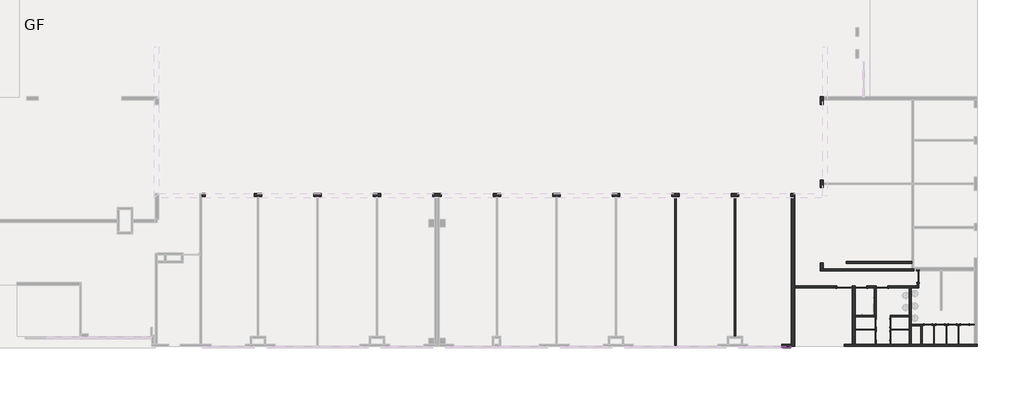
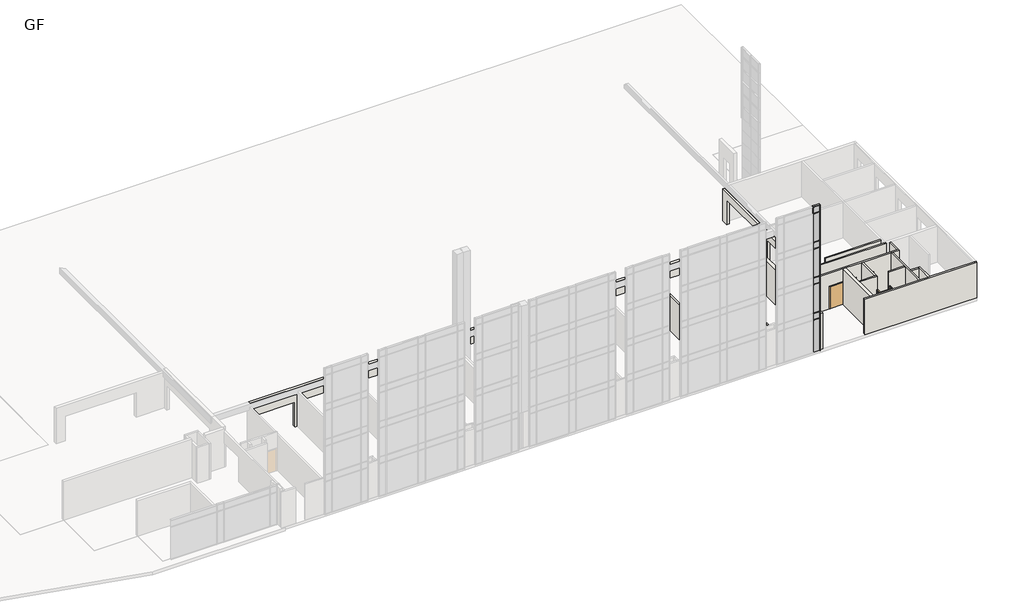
# One storey, part 11 of 23: 26 walls, 17 members, 12 doors, 8 plates.
"""IFC4 building model written with IfcOpenShell, lengths in millimetres."""

from ifc_helpers import new_model, si_unit, frame, origin, place, context, project, spatial, polyline, outline, extrude, faceted_brep, transform, mapped, element, save
from components import m_single_flush_d_1200x2150_085a39eb, m_single_flush_d_600x2100_toilet_partition_8216d307, m_single_flush_d_900x2150_308bf3ab, m_single_flush_d_900x2150_4cfb9a1c, rectangular_mullion_50_x_150mm_64d38db8, rectangular_mullion_50_x_150mm_68b3818a, rectangular_mullion_50_x_150mm_9e0f1e24, rectangular_mullion_50_x_150mm_a95743fc, rectangular_mullion_50_x_150mm_32aaa733, rectangular_mullion_50_x_150mm_9b8962c0, rectangular_mullion_50_x_150mm_dbb82e9e, system_panel_glazed_f9f902e6, system_panel_glazed_6ff5b55b, system_panel_glazed_93ed122c

model = new_model("IFC4")

# Units and contexts
model_context = context("Model", 3, world=origin())
ifc_project = project(units=[si_unit("LENGTHUNIT", "METRE", prefix="MILLI")], contexts=[model_context])

# Site, building, storey
site = spatial("IfcSite", under=ifc_project)
building = spatial("IfcBuilding", under=site)
storey = spatial("IfcBuildingStorey", under=building, Name="GF", Elevation=900.0)

# Doors
placement = place(None, origin())
m_single_flush_d_1200x2150_shape = m_single_flush_d_1200x2150_085a39eb(model_context)
element("IfcDoor", 1, ObjectType="M_Single-Flush : D-1200x2150", at=placement, inside=storey, context=model_context, shape_type="MappedRepresentation", body=[
    mapped(m_single_flush_d_1200x2150_shape, transform((32662.4134101, -21228.6148653, 900.0), x_axis=(1.0, 0.0, 0.0), y_axis=(0.0, 1.0, 0.0), z_axis=(0.0, 0.0, 1.0))),
])
m_single_flush_d_600x2100_toilet_partition_shape = m_single_flush_d_600x2100_toilet_partition_8216d307(model_context)
element("IfcDoor", 2, ObjectType="M_Single-Flush : D-600x2100-toilet-partition", at=placement, inside=storey, context=model_context, shape_type="MappedRepresentation", body=[
    mapped(m_single_flush_d_600x2100_toilet_partition_shape, transform((39137.4134101, -24152.6148653, 900.0), x_axis=(-1.0, 0.0, 0.0), y_axis=(0.0, -1.0, 0.0), z_axis=(0.0, 0.0, 1.0))),
])
element("IfcDoor", 3, ObjectType="M_Single-Flush : D-600x2100-toilet-partition", at=placement, inside=storey, context=model_context, shape_type="MappedRepresentation", body=[
    mapped(m_single_flush_d_600x2100_toilet_partition_shape, transform((40087.4134101, -24152.6148653, 900.0), x_axis=(-1.0, 0.0, 0.0), y_axis=(0.0, -1.0, 0.0), z_axis=(0.0, 0.0, 1.0))),
])
element("IfcDoor", 4, ObjectType="M_Single-Flush : D-600x2100-toilet-partition", at=placement, inside=storey, context=model_context, shape_type="MappedRepresentation", body=[
    mapped(m_single_flush_d_600x2100_toilet_partition_shape, transform((41037.4134101, -24152.6148653, 900.0), x_axis=(-1.0, 0.0, 0.0), y_axis=(0.0, -1.0, 0.0), z_axis=(0.0, 0.0, 1.0))),
])
element("IfcDoor", 5, ObjectType="M_Single-Flush : D-600x2100-toilet-partition", at=placement, inside=storey, context=model_context, shape_type="MappedRepresentation", body=[
    mapped(m_single_flush_d_600x2100_toilet_partition_shape, transform((41987.4134101, -24152.6148653, 900.0), x_axis=(-1.0, 0.0, 0.0), y_axis=(0.0, -1.0, 0.0), z_axis=(0.0, 0.0, 1.0))),
])
element("IfcDoor", 6, ObjectType="M_Single-Flush : D-600x2100-toilet-partition", at=placement, inside=storey, context=model_context, shape_type="MappedRepresentation", body=[
    mapped(m_single_flush_d_600x2100_toilet_partition_shape, transform((36217.4134101, -24027.6148653, 900.0), x_axis=(0.0, -1.0, 0.0), y_axis=(1.0, 0.0, 0.0), z_axis=(0.0, 0.0, 1.0))),
])
element("IfcDoor", 7, ObjectType="M_Single-Flush : D-600x2100-toilet-partition", at=placement, inside=storey, context=model_context, shape_type="MappedRepresentation", body=[
    mapped(m_single_flush_d_600x2100_toilet_partition_shape, transform((36217.4134101, -25027.6148653, 900.0), x_axis=(0.0, -1.0, 0.0), y_axis=(1.0, 0.0, 0.0), z_axis=(0.0, 0.0, 1.0))),
])
element("IfcDoor", 8, ObjectType="M_Single-Flush : D-600x2100-toilet-partition", at=placement, inside=storey, context=model_context, shape_type="MappedRepresentation", body=[
    mapped(m_single_flush_d_600x2100_toilet_partition_shape, transform((35082.4134101, -24027.6148653, 900.0), x_axis=(0.0, 1.0, 0.0), y_axis=(-1.0, 0.0, 0.0), z_axis=(0.0, 0.0, 1.0))),
])
element("IfcDoor", 9, ObjectType="M_Single-Flush : D-600x2100-toilet-partition", at=placement, inside=storey, context=model_context, shape_type="MappedRepresentation", body=[
    mapped(m_single_flush_d_600x2100_toilet_partition_shape, transform((35082.4134101, -25027.6148653, 900.0), x_axis=(0.0, 1.0, 0.0), y_axis=(-1.0, 0.0, 0.0), z_axis=(0.0, 0.0, 1.0))),
])
m_single_flush_d_900x2150_shape = m_single_flush_d_900x2150_308bf3ab(model_context)
element("IfcDoor", 10, ObjectType="M_Single-Flush : D-900x2150", at=placement, inside=storey, context=model_context, shape_type="MappedRepresentation", body=[
    mapped(m_single_flush_d_900x2150_shape, transform((35557.4134101, -21228.6148653, 900.0), x_axis=(-1.0, 0.0, 0.0), y_axis=(0.0, -1.0, 0.0), z_axis=(0.0, 0.0, 1.0))),
])
element("IfcDoor", 11, ObjectType="M_Single-Flush : D-900x2150", at=placement, inside=storey, context=model_context, shape_type="MappedRepresentation", body=[
    mapped(m_single_flush_d_900x2150_shape, transform((33942.4134101, -21228.6148653, 900.0), x_axis=(-1.0, 0.0, 0.0), y_axis=(0.0, -1.0, 0.0), z_axis=(0.0, 0.0, 1.0))),
])
m_single_flush_d_900x2150_2_shape = m_single_flush_d_900x2150_4cfb9a1c(model_context)
element("IfcDoor", 12, ObjectType="M_Single-Flush : D-900x2150", at=placement, inside=storey, context=model_context, shape_type="MappedRepresentation", body=[
    mapped(m_single_flush_d_900x2150_2_shape, transform((38363.4134101, -20422.6148653, 900.0), x_axis=(0.0, 1.0, 0.0), y_axis=(-1.0, 0.0, 0.0), z_axis=(0.0, 0.0, 1.0))),
])

# Members
rectangular_mullion_50_x_150mm_shape = rectangular_mullion_50_x_150mm_64d38db8(model_context)
element("IfcMember", 13, ObjectType="Rectangular Mullion : 50 x 150mm", at=placement, inside=storey, context=model_context, shape_type="MappedRepresentation", body=[
    mapped(rectangular_mullion_50_x_150mm_shape, transform((28437.4134101, -25897.6148653, 15125.0), x_axis=(0.0, 0.0, 1.0), y_axis=(0.0, -1.0, 0.0), z_axis=(1.0, 0.0, 0.0))),
])
rectangular_mullion_50_x_150mm_2_shape = rectangular_mullion_50_x_150mm_68b3818a(model_context)
element("IfcMember", 14, ObjectType="Rectangular Mullion : 50 x 150mm", at=placement, inside=storey, context=model_context, shape_type="MappedRepresentation", body=[
    mapped(rectangular_mullion_50_x_150mm_2_shape, transform((28437.4134101, -25897.6148653, 4750.0), x_axis=(0.0, 0.0, 1.0), y_axis=(0.0, -1.0, 0.0), z_axis=(1.0, 0.0, 0.0))),
])
element("IfcMember", 15, ObjectType="Rectangular Mullion : 50 x 150mm", at=placement, inside=storey, context=model_context, shape_type="MappedRepresentation", body=[
    mapped(rectangular_mullion_50_x_150mm_2_shape, transform((28437.4134101, -25897.6148653, 4100.0), x_axis=(0.0, 0.0, 1.0), y_axis=(0.0, -1.0, 0.0), z_axis=(1.0, 0.0, 0.0))),
])
element("IfcMember", 16, ObjectType="Rectangular Mullion : 50 x 150mm", at=placement, inside=storey, context=model_context, shape_type="MappedRepresentation", body=[
    mapped(rectangular_mullion_50_x_150mm_2_shape, transform((28437.4134101, -25897.6148653, 8200.0), x_axis=(0.0, 0.0, 1.0), y_axis=(0.0, -1.0, 0.0), z_axis=(1.0, 0.0, 0.0))),
])
element("IfcMember", 17, ObjectType="Rectangular Mullion : 50 x 150mm", at=placement, inside=storey, context=model_context, shape_type="MappedRepresentation", body=[
    mapped(rectangular_mullion_50_x_150mm_2_shape, transform((28437.4134101, -25897.6148653, 11650.0), x_axis=(0.0, 0.0, 1.0), y_axis=(0.0, -1.0, 0.0), z_axis=(1.0, 0.0, 0.0))),
])
element("IfcMember", 18, ObjectType="Rectangular Mullion : 50 x 150mm", at=placement, inside=storey, context=model_context, shape_type="MappedRepresentation", body=[
    mapped(rectangular_mullion_50_x_150mm_2_shape, transform((28437.4134101, -25897.6148653, 7550.0), x_axis=(0.0, 0.0, 1.0), y_axis=(0.0, -1.0, 0.0), z_axis=(1.0, 0.0, 0.0))),
])
element("IfcMember", 19, ObjectType="Rectangular Mullion : 50 x 150mm", at=placement, inside=storey, context=model_context, shape_type="MappedRepresentation", body=[
    mapped(rectangular_mullion_50_x_150mm_2_shape, transform((28437.4134101, -25897.6148653, 11000.0), x_axis=(0.0, 0.0, 1.0), y_axis=(0.0, -1.0, 0.0), z_axis=(1.0, 0.0, 0.0))),
])
element("IfcMember", 20, ObjectType="Rectangular Mullion : 50 x 150mm", at=placement, inside=storey, context=model_context, shape_type="MappedRepresentation", body=[
    mapped(rectangular_mullion_50_x_150mm_2_shape, transform((28437.4134101, -25897.6148653, 14450.0), x_axis=(0.0, 0.0, 1.0), y_axis=(0.0, -1.0, 0.0), z_axis=(1.0, 0.0, 0.0))),
])
rectangular_mullion_50_x_150mm_3_shape = rectangular_mullion_50_x_150mm_9e0f1e24(model_context)
element("IfcMember", 21, ObjectType="Rectangular Mullion : 50 x 150mm", at=placement, inside=storey, context=model_context, shape_type="MappedRepresentation", body=[
    mapped(rectangular_mullion_50_x_150mm_3_shape, transform((27812.4134101, -25897.6148653, 14450.0), x_axis=(1.0, 0.0, 0.0), y_axis=(0.0, -1.0, 0.0), z_axis=(0.0, 0.0, -1.0))),
])
rectangular_mullion_50_x_150mm_4_shape = rectangular_mullion_50_x_150mm_a95743fc(model_context)
element("IfcMember", 22, ObjectType="Rectangular Mullion : 50 x 150mm", at=placement, inside=storey, context=model_context, shape_type="MappedRepresentation", body=[
    mapped(rectangular_mullion_50_x_150mm_4_shape, transform((28487.4134101, -25897.6148653, 900.0), x_axis=(1.0, 0.0, 0.0), y_axis=(0.0, -1.0, 0.0), z_axis=(0.0, 0.0, -1.0))),
])
rectangular_mullion_50_x_150mm_5_shape = rectangular_mullion_50_x_150mm_32aaa733(model_context)
element("IfcMember", 23, ObjectType="Rectangular Mullion : 50 x 150mm", at=placement, inside=storey, context=model_context, shape_type="MappedRepresentation", body=[
    mapped(rectangular_mullion_50_x_150mm_5_shape, transform((28487.4134101, -25897.6148653, 4750.0), x_axis=(1.0, 0.0, 0.0), y_axis=(0.0, -1.0, 0.0), z_axis=(0.0, 0.0, -1.0))),
])
element("IfcMember", 24, ObjectType="Rectangular Mullion : 50 x 150mm", at=placement, inside=storey, context=model_context, shape_type="MappedRepresentation", body=[
    mapped(rectangular_mullion_50_x_150mm_5_shape, transform((28487.4134101, -25897.6148653, 8200.0), x_axis=(1.0, 0.0, 0.0), y_axis=(0.0, -1.0, 0.0), z_axis=(0.0, 0.0, -1.0))),
])
element("IfcMember", 25, ObjectType="Rectangular Mullion : 50 x 150mm", at=placement, inside=storey, context=model_context, shape_type="MappedRepresentation", body=[
    mapped(rectangular_mullion_50_x_150mm_5_shape, transform((28487.4134101, -25897.6148653, 11650.0), x_axis=(1.0, 0.0, 0.0), y_axis=(0.0, -1.0, 0.0), z_axis=(0.0, 0.0, -1.0))),
])
rectangular_mullion_50_x_150mm_6_shape = rectangular_mullion_50_x_150mm_9b8962c0(model_context)
element("IfcMember", 26, ObjectType="Rectangular Mullion : 50 x 150mm", at=placement, inside=storey, context=model_context, shape_type="MappedRepresentation", body=[
    mapped(rectangular_mullion_50_x_150mm_6_shape, transform((28487.4134101, -25897.6148653, 4100.0), x_axis=(1.0, 0.0, 0.0), y_axis=(0.0, -1.0, 0.0), z_axis=(0.0, 0.0, -1.0))),
])
element("IfcMember", 27, ObjectType="Rectangular Mullion : 50 x 150mm", at=placement, inside=storey, context=model_context, shape_type="MappedRepresentation", body=[
    mapped(rectangular_mullion_50_x_150mm_6_shape, transform((28487.4134101, -25897.6148653, 7550.0), x_axis=(1.0, 0.0, 0.0), y_axis=(0.0, -1.0, 0.0), z_axis=(0.0, 0.0, -1.0))),
])
element("IfcMember", 28, ObjectType="Rectangular Mullion : 50 x 150mm", at=placement, inside=storey, context=model_context, shape_type="MappedRepresentation", body=[
    mapped(rectangular_mullion_50_x_150mm_6_shape, transform((28487.4134101, -25897.6148653, 11000.0), x_axis=(1.0, 0.0, 0.0), y_axis=(0.0, -1.0, 0.0), z_axis=(0.0, 0.0, -1.0))),
])
rectangular_mullion_50_x_150mm_7_shape = rectangular_mullion_50_x_150mm_dbb82e9e(model_context)
element("IfcMember", 29, ObjectType="Rectangular Mullion : 50 x 150mm", at=placement, inside=storey, context=model_context, shape_type="MappedRepresentation", body=[
    mapped(rectangular_mullion_50_x_150mm_7_shape, transform((28487.4134101, -25897.6148653, 14450.0), x_axis=(1.0, 0.0, 0.0), y_axis=(0.0, -1.0, 0.0), z_axis=(0.0, 0.0, -1.0))),
])

# Plates
system_panel_glazed_shape = system_panel_glazed_f9f902e6(model_context)
element("IfcPlate", 30, ObjectType="System Panel : Glazed", at=placement, inside=storey, context=model_context, shape_type="MappedRepresentation", body=[
    mapped(system_panel_glazed_shape, transform((28137.4134101, -25897.6148653, 950.0), x_axis=(1.0, 0.0, 0.0), y_axis=(0.0, 1.0, 0.0), z_axis=(0.0, 0.0, 1.0))),
])
system_panel_glazed_2_shape = system_panel_glazed_6ff5b55b(model_context)
element("IfcPlate", 31, ObjectType="System Panel : Glazed", at=placement, inside=storey, context=model_context, shape_type="MappedRepresentation", body=[
    mapped(system_panel_glazed_2_shape, transform((28137.4134101, -25897.6148653, 4775.0), x_axis=(1.0, 0.0, 0.0), y_axis=(0.0, 1.0, 0.0), z_axis=(0.0, 0.0, 1.0))),
])
element("IfcPlate", 32, ObjectType="System Panel : Glazed", at=placement, inside=storey, context=model_context, shape_type="MappedRepresentation", body=[
    mapped(system_panel_glazed_2_shape, transform((28137.4134101, -25897.6148653, 8225.0), x_axis=(1.0, 0.0, 0.0), y_axis=(0.0, 1.0, 0.0), z_axis=(0.0, 0.0, 1.0))),
])
element("IfcPlate", 33, ObjectType="System Panel : Glazed", at=placement, inside=storey, context=model_context, shape_type="MappedRepresentation", body=[
    mapped(system_panel_glazed_2_shape, transform((28137.4134101, -25897.6148653, 11675.0), x_axis=(1.0, 0.0, 0.0), y_axis=(0.0, 1.0, 0.0), z_axis=(0.0, 0.0, 1.0))),
])
system_panel_glazed_3_shape = system_panel_glazed_93ed122c(model_context)
element("IfcPlate", 34, ObjectType="System Panel : Glazed", at=placement, inside=storey, context=model_context, shape_type="MappedRepresentation", body=[
    mapped(system_panel_glazed_3_shape, transform((28137.4134101, -25897.6148653, 4125.0), x_axis=(1.0, 0.0, 0.0), y_axis=(0.0, 1.0, 0.0), z_axis=(0.0, 0.0, 1.0))),
])
element("IfcPlate", 35, ObjectType="System Panel : Glazed", at=placement, inside=storey, context=model_context, shape_type="MappedRepresentation", body=[
    mapped(system_panel_glazed_3_shape, transform((28137.4134101, -25897.6148653, 7575.0), x_axis=(1.0, 0.0, 0.0), y_axis=(0.0, 1.0, 0.0), z_axis=(0.0, 0.0, 1.0))),
])
element("IfcPlate", 36, ObjectType="System Panel : Glazed", at=placement, inside=storey, context=model_context, shape_type="MappedRepresentation", body=[
    mapped(system_panel_glazed_3_shape, transform((28137.4134101, -25897.6148653, 11025.0), x_axis=(1.0, 0.0, 0.0), y_axis=(0.0, 1.0, 0.0), z_axis=(0.0, 0.0, 1.0))),
])
element("IfcPlate", 37, ObjectType="System Panel : Glazed", at=placement, inside=storey, context=model_context, shape_type="MappedRepresentation", body=[
    mapped(system_panel_glazed_3_shape, transform((28137.4134101, -25897.6148653, 14475.0), x_axis=(1.0, 0.0, 0.0), y_axis=(0.0, 1.0, 0.0), z_axis=(0.0, 0.0, 1.0))),
])

# Walls
element("IfcWall", 38, ObjectType="Toilet-partition", at=placement, inside=storey, context=model_context, shape_type="Brep", body=[
    faceted_brep([(41337.4134101, -24177.6148653, 900.0), (41487.4134101, -24177.6148653, 900.0), (41537.4134101, -24177.6148653, 900.0), (41687.4134101, -24177.6148653, 900.0), (41687.4134101, -24177.6148653, 3000.0), (42287.4134101, -24177.6148653, 3000.0), (42287.4134101, -24177.6148653, 900.0), (42717.4134101, -24177.6148653, 900.0), (42717.4134101, -24177.6148653, 3050.0), (41537.4134101, -24177.6148653, 3050.0), (41487.4134101, -24177.6148653, 3050.0), (40587.4134101, -24177.6148653, 3050.0), (40537.4134101, -24177.6148653, 3050.0), (39637.4134101, -24177.6148653, 3050.0), (39587.4134101, -24177.6148653, 3050.0), (38699.4134101, -24177.6148653, 3050.0), (38699.4134101, -24177.6148653, 900.0), (38837.4134101, -24177.6148653, 900.0), (38837.4134101, -24177.6148653, 3000.0), (39437.4134101, -24177.6148653, 3000.0), (39437.4134101, -24177.6148653, 900.0), (39587.4134101, -24177.6148653, 900.0), (39637.4134101, -24177.6148653, 900.0), (39787.4134101, -24177.6148653, 900.0), (39787.4134101, -24177.6148653, 3000.0), (40387.4134101, -24177.6148653, 3000.0), (40387.4134101, -24177.6148653, 900.0), (40537.4134101, -24177.6148653, 900.0), (40587.4134101, -24177.6148653, 900.0), (40737.4134101, -24177.6148653, 900.0), (40737.4134101, -24177.6148653, 3000.0), (41337.4134101, -24177.6148653, 3000.0), (41687.4134101, -24127.6148653, 3000.0), (41687.4134101, -24127.6148653, 900.0), (41337.4134101, -24127.6148653, 900.0), (41337.4134101, -24127.6148653, 3000.0), (40737.4134101, -24127.6148653, 3000.0), (40737.4134101, -24127.6148653, 900.0), (40387.4134101, -24127.6148653, 900.0), (40387.4134101, -24127.6148653, 3000.0), (39787.4134101, -24127.6148653, 3000.0), (39787.4134101, -24127.6148653, 900.0), (39437.4134101, -24127.6148653, 900.0), (39437.4134101, -24127.6148653, 3000.0), (38837.4134101, -24127.6148653, 3000.0), (38837.4134101, -24127.6148653, 900.0), (38699.4134101, -24127.6148653, 900.0), (38699.4134101, -24127.6148653, 3050.0), (42717.4134101, -24127.6148653, 3050.0), (42717.4134101, -24127.6148653, 900.0), (42287.4134101, -24127.6148653, 900.0), (42287.4134101, -24127.6148653, 3000.0)], [[[0, 1, 2, 3, 4, 5, 6, 7, 8, 9, 10, 11, 12, 13, 14, 15, 16, 17, 18, 19, 20, 21, 22, 23, 24, 25, 26, 27, 28, 29, 30, 31]], [[32, 33, 34, 35, 36, 37, 38, 39, 40, 41, 42, 43, 44, 45, 46, 47, 48, 49, 50, 51]], [[46, 45, 17, 16]], [[42, 41, 23, 22, 21, 20]], [[38, 37, 29, 28, 27, 26]], [[34, 33, 3, 2, 1, 0]], [[50, 49, 7, 6]], [[15, 14, 13, 12, 11, 10, 9, 8, 48, 47]], [[8, 7, 49, 48]], [[16, 15, 47, 46]], [[18, 17, 45, 44]], [[19, 18, 44, 43]], [[20, 19, 43, 42]], [[24, 23, 41, 40]], [[25, 24, 40, 39]], [[26, 25, 39, 38]], [[30, 29, 37, 36]], [[31, 30, 36, 35]], [[0, 31, 35, 34]], [[4, 3, 33, 32]], [[5, 4, 32, 51]], [[6, 5, 51, 50]]]),
])
element("IfcWall", 39, ObjectType="Toilet-partition", at=placement, inside=storey, context=model_context, shape_type="SweptSolid", body=[
    extrude(outline(polyline([(39587.4134101, -25692.6148653), (39587.4134101, -24177.6148653), (39637.4134101, -24177.6148653), (39637.4134101, -25692.6148653), (39587.4134101, -25692.6148653)])), frame((0.0, 0.0, 900.0), z_axis=(0.0, 0.0, 1.0), x_axis=(1.0, 0.0, 0.0)), (0.0, 0.0, 1.0), 2150.0),
])
element("IfcWall", 40, ObjectType="Toilet-partition", at=placement, inside=storey, context=model_context, shape_type="SweptSolid", body=[
    extrude(outline(polyline([(40537.4134101, -25692.6148653), (40537.4134101, -24177.6148653), (40587.4134101, -24177.6148653), (40587.4134101, -25692.6148653), (40537.4134101, -25692.6148653)])), frame((0.0, 0.0, 900.0), z_axis=(0.0, 0.0, 1.0), x_axis=(1.0, 0.0, 0.0)), (0.0, 0.0, 1.0), 2150.0),
])
element("IfcWall", 41, ObjectType="Toilet-partition", at=placement, inside=storey, context=model_context, shape_type="SweptSolid", body=[
    extrude(outline(polyline([(41487.4134101, -25692.6148653), (41487.4134101, -24177.6148653), (41537.4134101, -24177.6148653), (41537.4134101, -25692.6148653), (41487.4134101, -25692.6148653)])), frame((0.0, 0.0, 900.0), z_axis=(0.0, 0.0, 1.0), x_axis=(1.0, 0.0, 0.0)), (0.0, 0.0, 1.0), 2150.0),
])
element("IfcWall", 42, ObjectType="Toilet-partition", at=placement, inside=storey, context=model_context, shape_type="Brep", body=[
    faceted_brep([(36192.4134101, -25327.6148653, 3000.0), (36192.4134101, -25327.6148653, 900.0), (36192.4134101, -25692.6148653, 900.0), (36192.4134101, -25692.6148653, 3050.0), (36192.4134101, -23564.6148653, 3050.0), (36192.4134101, -23564.6148653, 900.0), (36192.4134101, -23727.6148653, 900.0), (36192.4134101, -23727.6148653, 3000.0), (36192.4134101, -24327.6148653, 3000.0), (36192.4134101, -24327.6148653, 900.0), (36192.4134101, -24727.6148653, 900.0), (36192.4134101, -24727.6148653, 3000.0), (36242.4134101, -25692.6148653, 900.0), (36242.4134101, -25327.6148653, 900.0), (36242.4134101, -25327.6148653, 3000.0), (36242.4134101, -24727.6148653, 3000.0), (36242.4134101, -24727.6148653, 900.0), (36242.4134101, -24552.6148653, 900.0), (36242.4134101, -24502.6148653, 900.0), (36242.4134101, -24327.6148653, 900.0), (36242.4134101, -24327.6148653, 3000.0), (36242.4134101, -23727.6148653, 3000.0), (36242.4134101, -23727.6148653, 900.0), (36242.4134101, -23564.6148653, 900.0), (36242.4134101, -23564.6148653, 3050.0), (36242.4134101, -24502.6148653, 3050.0), (36242.4134101, -24552.6148653, 3050.0), (36242.4134101, -25692.6148653, 3050.0)], [[[0, 1, 2, 3, 4, 5, 6, 7, 8, 9, 10, 11]], [[12, 13, 14, 15, 16, 17, 18, 19, 20, 21, 22, 23, 24, 25, 26, 27]], [[2, 1, 13, 12]], [[6, 5, 23, 22]], [[10, 9, 19, 18, 17, 16]], [[4, 3, 27, 26, 25, 24]], [[5, 4, 24, 23]], [[3, 2, 12, 27]], [[20, 19, 9, 8]], [[21, 20, 8, 7]], [[22, 21, 7, 6]], [[14, 13, 1, 0]], [[15, 14, 0, 11]], [[16, 15, 11, 10]]]),
])
element("IfcWall", 43, ObjectType="Toilet-partition", at=placement, inside=storey, context=model_context, shape_type="SweptSolid", body=[
    extrude(outline(polyline([(37692.4134101, -24552.6148653), (36242.4134101, -24552.6148653), (36242.4134101, -24502.6148653), (37692.4134101, -24502.6148653), (37692.4134101, -24552.6148653)])), frame((0.0, 0.0, 900.0), z_axis=(0.0, 0.0, 1.0), x_axis=(1.0, 0.0, 0.0)), (0.0, 0.0, 1.0), 2150.0),
])
element("IfcWall", 44, ObjectType="Toilet-partition", at=placement, inside=storey, context=model_context, shape_type="Brep", body=[
    faceted_brep([(35057.4134101, -24327.6148653, 900.0), (35057.4134101, -24502.6148653, 900.0), (35057.4134101, -24552.6148653, 900.0), (35057.4134101, -24727.6148653, 900.0), (35057.4134101, -24727.6148653, 3000.0), (35057.4134101, -25327.6148653, 3000.0), (35057.4134101, -25327.6148653, 900.0), (35057.4134101, -25692.6148653, 900.0), (35057.4134101, -25692.6148653, 3050.0), (35057.4134101, -24552.6148653, 3050.0), (35057.4134101, -24502.6148653, 3050.0), (35057.4134101, -23564.6148653, 3050.0), (35057.4134101, -23564.6148653, 900.0), (35057.4134101, -23727.6148653, 900.0), (35057.4134101, -23727.6148653, 3000.0), (35057.4134101, -24327.6148653, 3000.0), (35107.4134101, -24727.6148653, 3000.0), (35107.4134101, -24727.6148653, 900.0), (35107.4134101, -24327.6148653, 900.0), (35107.4134101, -24327.6148653, 3000.0), (35107.4134101, -23727.6148653, 3000.0), (35107.4134101, -23727.6148653, 900.0), (35107.4134101, -23564.6148653, 900.0), (35107.4134101, -23564.6148653, 3050.0), (35107.4134101, -25692.6148653, 3050.0), (35107.4134101, -25692.6148653, 900.0), (35107.4134101, -25327.6148653, 900.0), (35107.4134101, -25327.6148653, 3000.0)], [[[0, 1, 2, 3, 4, 5, 6, 7, 8, 9, 10, 11, 12, 13, 14, 15]], [[16, 17, 18, 19, 20, 21, 22, 23, 24, 25, 26, 27]], [[22, 21, 13, 12]], [[18, 17, 3, 2, 1, 0]], [[26, 25, 7, 6]], [[11, 10, 9, 8, 24, 23]], [[12, 11, 23, 22]], [[8, 7, 25, 24]], [[14, 13, 21, 20]], [[15, 14, 20, 19]], [[0, 15, 19, 18]], [[4, 3, 17, 16]], [[5, 4, 16, 27]], [[6, 5, 27, 26]]]),
])
element("IfcWall", 45, ObjectType="Toilet-partition", at=placement, inside=storey, context=model_context, shape_type="SweptSolid", body=[
    extrude(outline(polyline([(33504.4134101, -24502.6148653), (35057.4134101, -24502.6148653), (35057.4134101, -24552.6148653), (33504.4134101, -24552.6148653), (33504.4134101, -24502.6148653)])), frame((0.0, 0.0, 900.0), z_axis=(0.0, 0.0, 1.0), x_axis=(1.0, 0.0, 0.0)), (0.0, 0.0, 1.0), 2150.0),
])
element("IfcWall", 46, ObjectType="wall-115", at=placement, inside=storey, context=model_context, shape_type="SweptSolid", body=[
    extrude(outline(polyline([(24241.9134101, -14217.6148653), (24241.9134101, -25062.6148653), (24099.9134101, -25062.6148653), (24099.9134101, -14217.6148653), (24241.9134101, -14217.6148653)])), frame((0.0, 0.0, 900.0), z_axis=(0.0, 0.0, 1.0), x_axis=(1.0, 0.0, 0.0)), (0.0, 0.0, 1.0), 3475.0),
])
element("IfcWall", 47, ObjectType="wall-115", at=placement, inside=storey, context=model_context, shape_type="SweptSolid", body=[
    extrude(outline(polyline([(19626.9134101, -14217.6148653), (19626.9134101, -25765.1148653), (19484.9134101, -25765.1148653), (19484.9134101, -14217.6148653), (19626.9134101, -14217.6148653)])), frame((0.0, 0.0, 900.0), z_axis=(0.0, 0.0, 1.0), x_axis=(1.0, 0.0, 0.0)), (0.0, 0.0, 1.0), 3475.0),
])
element("IfcWall", 48, ObjectType="wall-115", at=placement, inside=storey, context=model_context, shape_type="Brep", body=[
    faceted_brep([(38434.4134101, -21299.6148653, 900.0), (38434.4134101, -21299.6148653, 4375.0), (37834.4134101, -21299.6148653, 4375.0), (37692.4134101, -21299.6148653, 4375.0), (35119.4134101, -21299.6148653, 4375.0), (34977.4134101, -21299.6148653, 4375.0), (33504.4134101, -21299.6148653, 4375.0), (33247.4134101, -21299.6148653, 4375.0), (28799.4134101, -21299.6148653, 4375.0), (28799.4134101, -21299.6148653, 900.0), (32062.4134101, -21299.6148653, 900.0), (32062.4134101, -21299.6148653, 3050.0), (33262.4134101, -21299.6148653, 3050.0), (33262.4134101, -21299.6148653, 900.0), (33492.4134101, -21299.6148653, 900.0), (33492.4134101, -21299.6148653, 3050.0), (34392.4134101, -21299.6148653, 3050.0), (34392.4134101, -21299.6148653, 900.0), (34977.4134101, -21299.6148653, 900.0), (35107.4134101, -21299.6148653, 900.0), (35107.4134101, -21299.6148653, 3050.0), (36007.4134101, -21299.6148653, 3050.0), (36007.4134101, -21299.6148653, 900.0), (37692.4134101, -21299.6148653, 900.0), (37834.4134101, -21299.6148653, 900.0), (38434.4134101, -21157.6148653, 4375.0), (38434.4134101, -21157.6148653, 900.0), (38292.4134101, -21157.6148653, 900.0), (36007.4134101, -21157.6148653, 900.0), (36007.4134101, -21157.6148653, 3050.0), (35107.4134101, -21157.6148653, 3050.0), (35107.4134101, -21157.6148653, 900.0), (34392.4134101, -21157.6148653, 900.0), (34392.4134101, -21157.6148653, 3050.0), (33492.4134101, -21157.6148653, 3050.0), (33492.4134101, -21157.6148653, 900.0), (33262.4134101, -21157.6148653, 900.0), (33262.4134101, -21157.6148653, 3050.0), (32062.4134101, -21157.6148653, 3050.0), (32062.4134101, -21157.6148653, 900.0), (28799.4134101, -21157.6148653, 900.0), (28799.4134101, -21157.6148653, 4375.0), (38292.4134101, -21157.6148653, 4375.0)], [[[0, 1, 2, 3, 4, 5, 6, 7, 8, 9, 10, 11, 12, 13, 14, 15, 16, 17, 18, 19, 20, 21, 22, 23, 24]], [[25, 26, 27, 28, 29, 30, 31, 32, 33, 34, 35, 36, 37, 38, 39, 40, 41, 42]], [[26, 0, 24, 23, 22, 28, 27]], [[9, 40, 39, 10]], [[31, 19, 18, 17, 32]], [[35, 14, 13, 36]], [[1, 0, 26, 25]], [[9, 8, 41, 40]], [[8, 7, 6, 5, 4, 3, 2, 1, 25, 42, 41]], [[20, 19, 31, 30]], [[21, 20, 30, 29]], [[22, 21, 29, 28]], [[15, 14, 35, 34]], [[16, 15, 34, 33]], [[17, 16, 33, 32]], [[12, 37, 36, 13]], [[37, 12, 11, 38]], [[38, 11, 10, 39]]]),
])
element("IfcWall", 49, ObjectType="wall-115", at=placement, inside=storey, context=model_context, shape_type="Brep", body=[
    faceted_brep([(33504.4134101, -23564.6148653, 900.0), (35057.4134101, -23564.6148653, 900.0), (35107.4134101, -23564.6148653, 900.0), (35119.4134101, -23564.6148653, 900.0), (35119.4134101, -23564.6148653, 4375.0), (33504.4134101, -23564.6148653, 4375.0), (33504.4134101, -23422.6148653, 900.0), (33504.4134101, -23422.6148653, 4375.0), (34977.4134101, -23422.6148653, 4375.0), (35119.4134101, -23422.6148653, 4375.0), (35119.4134101, -23422.6148653, 900.0), (34977.4134101, -23422.6148653, 900.0)], [[[0, 1, 2, 3, 4, 5]], [[6, 7, 8, 9, 10, 11]], [[3, 2, 1, 0, 6, 11, 10]], [[4, 3, 10, 9]], [[0, 5, 7, 6]], [[5, 4, 9, 8, 7]]]),
])
element("IfcWall", 50, ObjectType="wall-115", at=placement, inside=storey, context=model_context, shape_type="Brep", body=[
    faceted_brep([(35119.4134101, -23422.6148653, 4375.0), (35119.4134101, -23422.6148653, 900.0), (35119.4134101, -21299.6148653, 900.0), (35119.4134101, -21299.6148653, 4375.0), (34977.4134101, -23422.6148653, 900.0), (34977.4134101, -23422.6148653, 4375.0), (34977.4134101, -21299.6148653, 4375.0), (34977.4134101, -21299.6148653, 900.0), (35107.4134101, -21299.6148653, 900.0)], [[[0, 1, 2, 3]], [[4, 5, 6, 7]], [[2, 1, 4, 7, 8]], [[0, 5, 4, 1]], [[3, 2, 8, 7, 6]], [[0, 3, 6, 5]]]),
])
element("IfcWall", 51, ObjectType="wall-115", at=placement, inside=storey, context=model_context, shape_type="Brep", body=[
    faceted_brep([(36192.4134101, -23564.6148653, 900.0), (36242.4134101, -23564.6148653, 900.0), (37692.4134101, -23564.6148653, 900.0), (37692.4134101, -23564.6148653, 4375.0), (36192.4134101, -23564.6148653, 4375.0), (36192.4134101, -23564.6148653, 3050.0), (36192.4134101, -23422.6148653, 900.0), (36192.4134101, -23422.6148653, 4375.0), (37692.4134101, -23422.6148653, 4375.0), (37692.4134101, -23422.6148653, 900.0)], [[[0, 1, 2, 3, 4, 5]], [[6, 7, 8, 9]], [[2, 1, 0, 6, 9]], [[0, 5, 4, 7, 6]], [[3, 2, 9, 8]], [[4, 3, 8, 7]]]),
])
element("IfcWall", 52, ObjectType="wall-115", at=placement, inside=storey, context=model_context, shape_type="Brep", body=[
    faceted_brep([(37834.4134101, -25692.6148653, 900.0), (37834.4134101, -24257.6148653, 900.0), (37834.4134101, -24115.6148653, 900.0), (37834.4134101, -21299.6148653, 900.0), (37834.4134101, -21299.6148653, 4375.0), (37834.4134101, -24115.6148653, 4375.0), (37834.4134101, -24257.6148653, 4375.0), (37834.4134101, -25692.6148653, 4375.0), (37692.4134101, -25692.6148653, 900.0), (37692.4134101, -25692.6148653, 4375.0), (37692.4134101, -23564.6148653, 4375.0), (37692.4134101, -23422.6148653, 4375.0), (37692.4134101, -21299.6148653, 4375.0), (37692.4134101, -21299.6148653, 900.0), (37692.4134101, -23422.6148653, 900.0), (37692.4134101, -23564.6148653, 900.0), (37692.4134101, -24502.6148653, 900.0), (37692.4134101, -24552.6148653, 900.0)], [[[0, 1, 2, 3, 4, 5, 6, 7]], [[8, 9, 10, 11, 12, 13, 14, 15, 16, 17]], [[3, 2, 1, 0, 8, 17, 16, 15, 14, 13]], [[4, 3, 13, 12]], [[0, 7, 9, 8]], [[7, 6, 5, 4, 12, 11, 10, 9]]]),
])
element("IfcWall", 53, ObjectType="wall-115", at=placement, inside=storey, context=model_context, shape_type="Brep", body=[
    faceted_brep([(38699.4134101, -25692.6148653, 900.0), (38699.4134101, -24177.6148653, 900.0), (38699.4134101, -24127.6148653, 900.0), (38699.4134101, -24115.6148653, 900.0), (38699.4134101, -24115.6148653, 4375.0), (38699.4134101, -25692.6148653, 4375.0), (38557.4134101, -25692.6148653, 900.0), (38557.4134101, -25692.6148653, 4375.0), (38557.4134101, -24257.6148653, 4375.0), (38557.4134101, -24115.6148653, 4375.0), (38557.4134101, -24115.6148653, 900.0), (38557.4134101, -24257.6148653, 900.0)], [[[0, 1, 2, 3, 4, 5]], [[6, 7, 8, 9, 10, 11]], [[3, 2, 1, 0, 6, 11, 10]], [[4, 3, 10, 9]], [[0, 5, 7, 6]], [[5, 4, 9, 8, 7]]]),
])
element("IfcWall", 54, ObjectType="wall-115", at=placement, inside=storey, context=model_context, shape_type="SweptSolid", body=[
    extrude(outline(polyline([(37834.4134101, -24115.6148653), (38557.4134101, -24115.6148653), (38557.4134101, -24257.6148653), (37834.4134101, -24257.6148653), (37834.4134101, -24115.6148653)])), frame((0.0, 0.0, 900.0), z_axis=(0.0, 0.0, 1.0), x_axis=(1.0, 0.0, 0.0)), (0.0, 0.0, 1.0), 3475.0),
])
element("IfcWall", 55, ObjectType="wall-115", at=placement, inside=storey, context=model_context, shape_type="Brep", body=[
    faceted_brep([(38031.9134101, -19845.6148653, 900.0), (37889.9134101, -19845.6148653, 900.0), (31029.4134101, -19845.6148653, 900.0), (30772.4134101, -19845.6148653, 900.0), (30772.4134101, -19845.6148653, 4025.0), (30772.4134101, -19845.6148653, 4375.0), (37889.9134101, -19845.6148653, 4375.0), (38031.9134101, -19845.6148653, 4375.0), (38031.9134101, -19987.6148653, 900.0), (38031.9134101, -19987.6148653, 4375.0), (30772.4134101, -19987.6148653, 4375.0), (30772.4134101, -19987.6148653, 900.0), (38031.9134101, -19984.6148653, 900.0), (38031.9134101, -19984.6148653, 4375.0)], [[[0, 1, 2, 3, 4, 5, 6, 7]], [[8, 9, 10, 11]], [[3, 2, 1, 0, 12, 8, 11]], [[0, 7, 13, 9, 8, 12]], [[5, 4, 3, 11, 10]], [[7, 6, 5, 10, 9, 13]]]),
])
element("IfcWall", 56, ObjectType="wall-115", at=placement, inside=storey, context=model_context, shape_type="SweptSolid", body=[
    extrude(outline(polyline([(32787.4134101, -19245.6148653), (37889.9134101, -19245.6148653), (37889.9134101, -19387.6148653), (32787.4134101, -19387.6148653), (32787.4134101, -19245.6148653)])), frame((0.0, 0.0, 900.0), z_axis=(0.0, 0.0, 1.0), x_axis=(1.0, 0.0, 0.0)), (0.0, 0.0, 1.0), 3475.0),
])
element("IfcWall", 57, ObjectType="wall-115", at=placement, inside=storey, context=model_context, shape_type="SweptSolid", body=[
    extrude(outline(polyline([(-21157.6148653, 900.0), (-21157.6148653, 4375.0), (-19984.6148653, 4375.0), (-19984.6148653, 3050.0), (-20872.6148653, 3050.0), (-20872.6148653, 900.0), (-21157.6148653, 900.0)])), frame((38292.4134101, 0.0, 0.0), z_axis=(1.0, 0.0, 0.0), x_axis=(0.0, 1.0, 0.0)), (0.0, 0.0, 1.0), 142.0),
])
element("IfcWall", 58, ObjectType="wall-115", at=placement, inside=storey, context=model_context, shape_type="Brep", body=[
    faceted_brep([(32662.4134101, -25834.6148653, 900.0), (42974.4134101, -25834.6148653, 900.0), (42974.4134101, -25834.6148653, 4375.0), (42827.4134101, -25834.6148653, 4375.0), (32662.4134101, -25834.6148653, 4375.0), (32662.4134101, -25692.6148653, 900.0), (32662.4134101, -25692.6148653, 4375.0), (33247.4134101, -25692.6148653, 4375.0), (33504.4134101, -25692.6148653, 4375.0), (37692.4134101, -25692.6148653, 4375.0), (37834.4134101, -25692.6148653, 4375.0), (38557.4134101, -25692.6148653, 4375.0), (38699.4134101, -25692.6148653, 4375.0), (42717.4134101, -25692.6148653, 4375.0), (42827.4134101, -25692.6148653, 4375.0), (42974.4134101, -25692.6148653, 4375.0), (42974.4134101, -25692.6148653, 900.0), (42717.4134101, -25692.6148653, 900.0), (41537.4134101, -25692.6148653, 900.0), (41487.4134101, -25692.6148653, 900.0), (40587.4134101, -25692.6148653, 900.0), (40537.4134101, -25692.6148653, 900.0), (39637.4134101, -25692.6148653, 900.0), (39587.4134101, -25692.6148653, 900.0), (38699.4134101, -25692.6148653, 900.0), (38557.4134101, -25692.6148653, 900.0), (37834.4134101, -25692.6148653, 900.0), (37692.4134101, -25692.6148653, 900.0), (36242.4134101, -25692.6148653, 900.0), (36192.4134101, -25692.6148653, 900.0), (35107.4134101, -25692.6148653, 900.0), (35057.4134101, -25692.6148653, 900.0), (33504.4134101, -25692.6148653, 900.0), (33247.4134101, -25692.6148653, 900.0)], [[[0, 1, 2, 3, 4]], [[5, 6, 7, 8, 9, 10, 11, 12, 13, 14, 15, 16, 17, 18, 19, 20, 21, 22, 23, 24, 25, 26, 27, 28, 29, 30, 31, 32, 33]], [[1, 0, 5, 33, 32, 31, 30, 29, 28, 27, 26, 25, 24, 23, 22, 21, 20, 19, 18, 17, 16]], [[0, 4, 6, 5]], [[2, 1, 16, 15]], [[3, 2, 15, 14]], [[4, 3, 14, 13, 12, 11, 10, 9, 8, 7, 6]]]),
])
element("IfcWall", 59, ObjectType="wall-115", at=placement, inside=storey, context=model_context, shape_type="SweptSolid", body=[
    extrude(outline(polyline([(28542.4134101, -25834.6148653), (27812.4134101, -25834.6148653), (27812.4134101, -25692.6148653), (28542.4134101, -25692.6148653), (28542.4134101, -25834.6148653)])), frame((0.0, 0.0, 900.0), z_axis=(0.0, 0.0, 1.0), x_axis=(1.0, 0.0, 0.0)), (0.0, 0.0, 1.0), 3475.0),
])
element("IfcWall", 60, ObjectType="wall-230", at=placement, inside=storey, context=model_context, shape_type="Brep", body=[
    faceted_brep([(33504.4134101, -25692.6148653, 900.0), (33504.4134101, -24552.6148653, 900.0), (33504.4134101, -24502.6148653, 900.0), (33504.4134101, -23564.6148653, 900.0), (33504.4134101, -23422.6148653, 900.0), (33504.4134101, -21299.6148653, 900.0), (33504.4134101, -21299.6148653, 4375.0), (33504.4134101, -23422.6148653, 4375.0), (33504.4134101, -23564.6148653, 4375.0), (33504.4134101, -25692.6148653, 4375.0), (33247.4134101, -25692.6148653, 900.0), (33247.4134101, -25692.6148653, 4375.0), (33247.4134101, -21299.6148653, 4375.0), (33247.4134101, -21299.6148653, 900.0), (33262.4134101, -21299.6148653, 900.0), (33492.4134101, -21299.6148653, 900.0)], [[[0, 1, 2, 3, 4, 5, 6, 7, 8, 9]], [[10, 11, 12, 13]], [[5, 4, 3, 2, 1, 0, 10, 13, 14, 15]], [[6, 5, 15, 14, 13, 12]], [[0, 9, 11, 10]], [[9, 8, 7, 6, 12, 11]]]),
])
element("IfcWall", 61, ObjectType="wall-230", at=placement, inside=storey, context=model_context, shape_type="Brep", body=[
    faceted_brep([(28799.4134101, -25834.6148653, 900.0), (28799.4134101, -21299.6148653, 900.0), (28799.4134101, -21157.6148653, 900.0), (28799.4134101, -14217.6148653, 900.0), (28799.4134101, -14217.6148653, 4375.0), (28799.4134101, -21157.6148653, 4375.0), (28799.4134101, -21299.6148653, 4375.0), (28799.4134101, -25834.6148653, 4375.0), (28542.4134101, -25834.6148653, 900.0), (28542.4134101, -25834.6148653, 4375.0), (28542.4134101, -25692.6148653, 4375.0), (28542.4134101, -14217.6148653, 4375.0), (28542.4134101, -14217.6148653, 900.0), (28542.4134101, -25692.6148653, 900.0)], [[[0, 1, 2, 3, 4, 5, 6, 7]], [[8, 9, 10, 11, 12, 13]], [[3, 2, 1, 0, 8, 13, 12]], [[0, 7, 9, 8]], [[4, 3, 12, 11]], [[7, 6, 5, 4, 11, 10, 9]]]),
])
element("IfcWall", 62, ObjectType="wall-230", at=placement, inside=storey, context=model_context, shape_type="Brep", body=[
    faceted_brep([(31029.4134101, -6457.6148653, 900.0), (31029.4134101, -6457.6148653, 4025.0), (31029.4134101, -13972.6148653, 4025.0), (31029.4134101, -19845.6148653, 4025.0), (31029.4134101, -19845.6148653, 900.0), (31029.4134101, -19372.6148653, 900.0), (31029.4134101, -19372.6148653, 3300.0), (31029.4134101, -13522.6148653, 3300.0), (31029.4134101, -13522.6148653, 900.0), (31029.4134101, -13292.1148653, 900.0), (31029.4134101, -13150.1148653, 900.0), (31029.4134101, -12922.6148653, 900.0), (31029.4134101, -12922.6148653, 3300.0), (31029.4134101, -7072.6148653, 3300.0), (31029.4134101, -7072.6148653, 900.0), (31029.4134101, -6714.6148653, 900.0), (30772.4134101, -6457.6148653, 4025.0), (30772.4134101, -6457.6148653, 900.0), (30772.4134101, -7072.6148653, 900.0), (30772.4134101, -7072.6148653, 3300.0), (30772.4134101, -12922.6148653, 3300.0), (30772.4134101, -12922.6148653, 900.0), (30772.4134101, -13522.6148653, 900.0), (30772.4134101, -13522.6148653, 3300.0), (30772.4134101, -19372.6148653, 3300.0), (30772.4134101, -19372.6148653, 900.0), (30772.4134101, -19845.6148653, 900.0), (30772.4134101, -19845.6148653, 4025.0), (30772.4134101, -13972.6148653, 4025.0), (30962.4134101, -6457.6148653, 4025.0), (30962.4134101, -19845.6148653, 4025.0), (30962.4134101, -13972.6148653, 4025.0)], [[[0, 1, 2, 3, 4, 5, 6, 7, 8, 9, 10, 11, 12, 13, 14, 15]], [[16, 17, 18, 19, 20, 21, 22, 23, 24, 25, 26, 27, 28]], [[17, 0, 15, 14, 18]], [[4, 26, 25, 5]], [[21, 11, 10, 9, 8, 22]], [[1, 0, 17, 16, 29]], [[4, 3, 30, 27, 26]], [[27, 30, 31, 28]], [[1, 29, 31, 2]], [[30, 3, 2, 31]], [[29, 16, 28, 31]], [[19, 13, 12, 20]], [[20, 12, 11, 21]], [[13, 19, 18, 14]], [[23, 7, 6, 24]], [[24, 6, 5, 25]], [[7, 23, 22, 8]]]),
])
element("IfcWall", 63, ObjectType="wall-230", at=placement, inside=storey, context=model_context, shape_type="Brep", body=[
    faceted_brep([(-17192.5865899, -14217.6148653, 900.0), (-16923.2450682, -14217.6148653, 900.0), (-16923.2450682, -14217.6148653, 3300.0), (-13110.0865899, -14217.6148653, 3300.0), (-13110.0865899, -14217.6148653, 900.0), (-12895.0865899, -14217.6148653, 900.0), (-12753.0865899, -14217.6148653, 900.0), (-12535.0865899, -14217.6148653, 900.0), (-12535.0865899, -14217.6148653, 3300.0), (-8495.0865899, -14217.6148653, 3300.0), (-8495.0865899, -14217.6148653, 900.0), (-8280.0865899, -14217.6148653, 900.0), (-8138.0865899, -14217.6148653, 900.0), (-7920.0865899, -14217.6148653, 900.0), (-7920.0865899, -14217.6148653, 3300.0), (-3880.0865899, -14217.6148653, 3300.0), (-3880.0865899, -14217.6148653, 900.0), (-3665.0865899, -14217.6148653, 900.0), (-3523.0865899, -14217.6148653, 900.0), (-3305.0865899, -14217.6148653, 900.0), (-3305.0865899, -14217.6148653, 3300.0), (734.9134101, -14217.6148653, 3300.0), (734.9134101, -14217.6148653, 900.0), (892.4134101, -14217.6148653, 900.0), (1034.4134101, -14217.6148653, 900.0), (1082.4134101, -14217.6148653, 900.0), (1224.4134101, -14217.6148653, 900.0), (1384.9134101, -14217.6148653, 900.0), (1384.9134101, -14217.6148653, 3300.0), (5424.9134101, -14217.6148653, 3300.0), (5424.9134101, -14217.6148653, 900.0), (5639.9134101, -14217.6148653, 900.0), (5781.9134101, -14217.6148653, 900.0), (5999.9134101, -14217.6148653, 900.0), (5999.9134101, -14217.6148653, 3300.0), (10039.9134101, -14217.6148653, 3300.0), (10039.9134101, -14217.6148653, 900.0), (10254.9134101, -14217.6148653, 900.0), (10396.9134101, -14217.6148653, 900.0), (10614.9134101, -14217.6148653, 900.0), (10614.9134101, -14217.6148653, 3300.0), (14654.9134101, -14217.6148653, 3300.0), (14654.9134101, -14217.6148653, 900.0), (14869.9134101, -14217.6148653, 900.0), (15011.9134101, -14217.6148653, 900.0), (15229.9134101, -14217.6148653, 900.0), (15229.9134101, -14217.6148653, 3300.0), (19269.9134101, -14217.6148653, 3300.0), (19269.9134101, -14217.6148653, 900.0), (19484.9134101, -14217.6148653, 900.0), (19626.9134101, -14217.6148653, 900.0), (19844.9134101, -14217.6148653, 900.0), (19844.9134101, -14217.6148653, 3300.0), (23884.9134101, -14217.6148653, 3300.0), (23884.9134101, -14217.6148653, 900.0), (24099.9134101, -14217.6148653, 900.0), (24241.9134101, -14217.6148653, 900.0), (24459.9134101, -14217.6148653, 900.0), (24459.9134101, -14217.6148653, 3300.0), (28499.9134101, -14217.6148653, 3300.0), (28499.9134101, -14217.6148653, 900.0), (28542.4134101, -14217.6148653, 900.0), (28799.4134101, -14217.6148653, 900.0), (28799.4134101, -14217.6148653, 4375.0), (28799.4134101, -14217.6148653, 4650.0), (-17192.5865899, -14217.6148653, 4650.0), (-16923.2450682, -13960.6148653, 3300.0), (-16923.2450682, -13960.6148653, 900.0), (-17192.5865899, -13960.6148653, 900.0), (-17192.5865899, -13960.6148653, 4375.0), (-17192.5865899, -13960.6148653, 4650.0), (28799.4134101, -13960.6148653, 4650.0), (28799.4134101, -13960.6148653, 900.0), (28499.9134101, -13960.6148653, 900.0), (28499.9134101, -13960.6148653, 3300.0), (24459.9134101, -13960.6148653, 3300.0), (24459.9134101, -13960.6148653, 900.0), (23884.9134101, -13960.6148653, 900.0), (23884.9134101, -13960.6148653, 3300.0), (19844.9134101, -13960.6148653, 3300.0), (19844.9134101, -13960.6148653, 900.0), (19269.9134101, -13960.6148653, 900.0), (19269.9134101, -13960.6148653, 3300.0), (15229.9134101, -13960.6148653, 3300.0), (15229.9134101, -13960.6148653, 900.0), (14654.9134101, -13960.6148653, 900.0), (14654.9134101, -13960.6148653, 3300.0), (10614.9134101, -13960.6148653, 3300.0), (10614.9134101, -13960.6148653, 900.0), (10039.9134101, -13960.6148653, 900.0), (10039.9134101, -13960.6148653, 3300.0), (5999.9134101, -13960.6148653, 3300.0), (5999.9134101, -13960.6148653, 900.0), (5424.9134101, -13960.6148653, 900.0), (5424.9134101, -13960.6148653, 3300.0), (1384.9134101, -13960.6148653, 3300.0), (1384.9134101, -13960.6148653, 900.0), (734.9134101, -13960.6148653, 900.0), (734.9134101, -13960.6148653, 3300.0), (-3305.0865899, -13960.6148653, 3300.0), (-3305.0865899, -13960.6148653, 900.0), (-3880.0865899, -13960.6148653, 900.0), (-3880.0865899, -13960.6148653, 3300.0), (-7920.0865899, -13960.6148653, 3300.0), (-7920.0865899, -13960.6148653, 900.0), (-8495.0865899, -13960.6148653, 900.0), (-8495.0865899, -13960.6148653, 3300.0), (-12535.0865899, -13960.6148653, 3300.0), (-12535.0865899, -13960.6148653, 900.0), (-13110.0865899, -13960.6148653, 900.0), (-13110.0865899, -13960.6148653, 3300.0)], [[[0, 1, 2, 3, 4, 5, 6, 7, 8, 9, 10, 11, 12, 13, 14, 15, 16, 17, 18, 19, 20, 21, 22, 23, 24, 25, 26, 27, 28, 29, 30, 31, 32, 33, 34, 35, 36, 37, 38, 39, 40, 41, 42, 43, 44, 45, 46, 47, 48, 49, 50, 51, 52, 53, 54, 55, 56, 57, 58, 59, 60, 61, 62, 63, 64, 65]], [[66, 67, 68, 69, 70, 71, 72, 73, 74, 75, 76, 77, 78, 79, 80, 81, 82, 83, 84, 85, 86, 87, 88, 89, 90, 91, 92, 93, 94, 95, 96, 97, 98, 99, 100, 101, 102, 103, 104, 105, 106, 107, 108, 109, 110]], [[68, 67, 1, 0]], [[105, 104, 13, 12, 11, 10]], [[101, 100, 19, 18, 17, 16]], [[97, 96, 27, 26, 25, 24, 23, 22]], [[93, 92, 33, 32, 31, 30]], [[89, 88, 39, 38, 37, 36]], [[85, 84, 45, 44, 43, 42]], [[81, 80, 51, 50, 49, 48]], [[77, 76, 57, 56, 55, 54]], [[73, 72, 62, 61, 60]], [[109, 108, 7, 6, 5, 4]], [[65, 64, 71, 70]], [[64, 63, 62, 72, 71]], [[0, 65, 70, 69, 68]], [[9, 8, 107, 106]], [[10, 9, 106, 105]], [[8, 7, 108, 107]], [[15, 14, 103, 102]], [[16, 15, 102, 101]], [[14, 13, 104, 103]], [[21, 20, 99, 98]], [[22, 21, 98, 97]], [[20, 19, 100, 99]], [[29, 28, 95, 94]], [[30, 29, 94, 93]], [[28, 27, 96, 95]], [[35, 34, 91, 90]], [[36, 35, 90, 89]], [[34, 33, 92, 91]], [[41, 40, 87, 86]], [[42, 41, 86, 85]], [[40, 39, 88, 87]], [[47, 46, 83, 82]], [[48, 47, 82, 81]], [[46, 45, 84, 83]], [[53, 52, 79, 78]], [[54, 53, 78, 77]], [[52, 51, 80, 79]], [[59, 58, 75, 74]], [[60, 59, 74, 73]], [[58, 57, 76, 75]], [[3, 2, 66, 110]], [[4, 3, 110, 109]], [[2, 1, 67, 66]]]),
])

save(model, "model.ifc")
